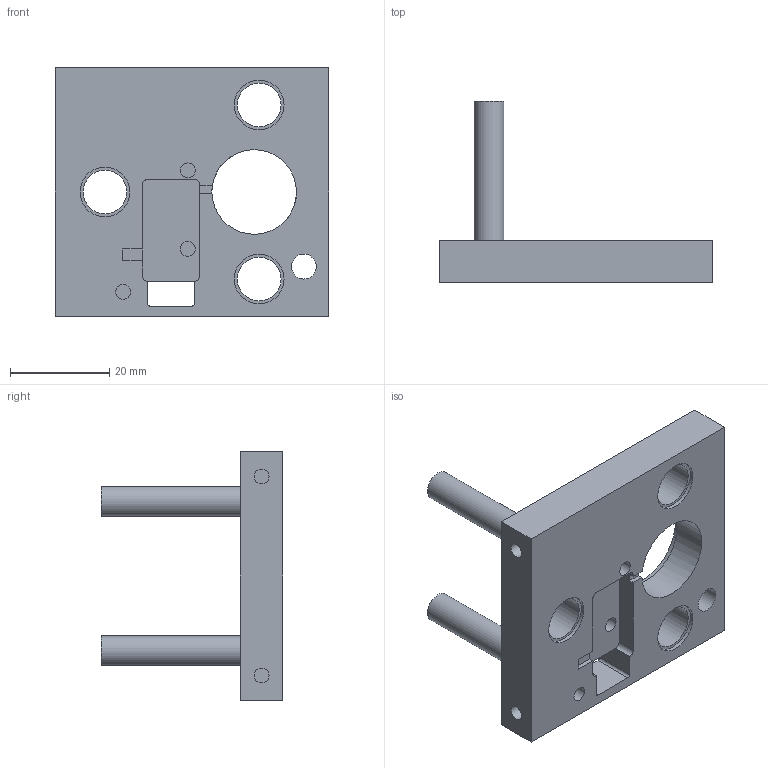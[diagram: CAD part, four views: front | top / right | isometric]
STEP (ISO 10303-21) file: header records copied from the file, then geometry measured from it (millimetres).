
FILE_DESCRIPTION(/* description */ (''),/* implementation_level */ '2;1');
FILE_NAME(/* name */ '',/* time_stamp */ '2025-10-06T21:32:38+08:00',/* author */ (''),/* organization */ (''),/* preprocessor_version */ 'ST-DEVELOPER v20.1',/* originating_system */ 'Autodesk Translation Framework v14.17.0.0',/* authorisation */ '');
FILE_SCHEMA (('AUTOMOTIVE_DESIGN { 1 0 10303 214 3 1 1 }'));
Length unit declared in the file: millimetre
Products named in the file (1): 探针移动系统
Bounding box: 55 x 36.5 x 50 mm (x, y, z)
Volume: 19315.2 mm3; surface area: 9796 mm2
Topology: 1 solids, 1 shells, 77 faces, 161 edges, 106 vertices
Faces by surface type: plane 43, cylinder 32, cone 2
Full cylindrical faces by diameter (mm): 3 x13, 3.5 x2, 5 x1, 6 x2, 8.8 x3, 10 x3, 17 x1, 19 x1
Entity records: 2135 total; most frequent: DIRECTION 385, CARTESIAN_POINT 345, ORIENTED_EDGE 322, EDGE_CURVE 161, AXIS2_PLACEMENT_3D 146, EDGE_LOOP 109, VERTEX_POINT 106, LINE 93
